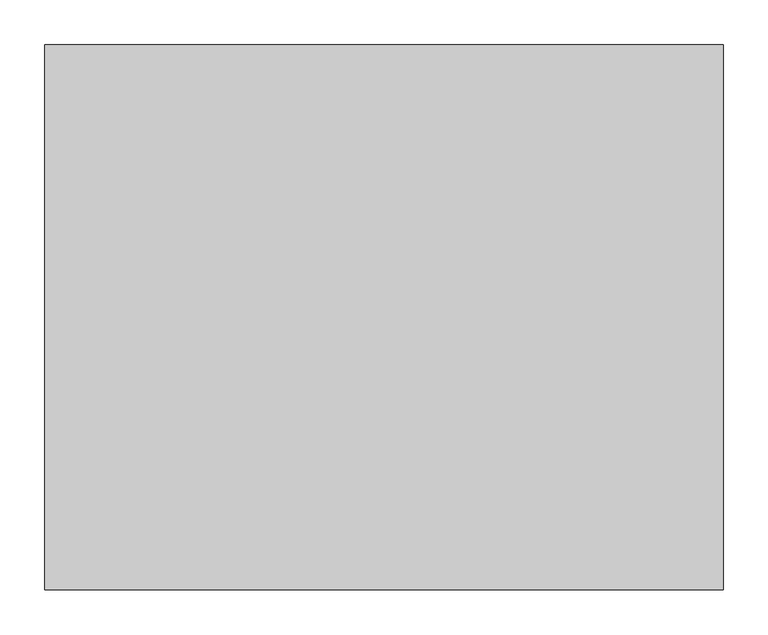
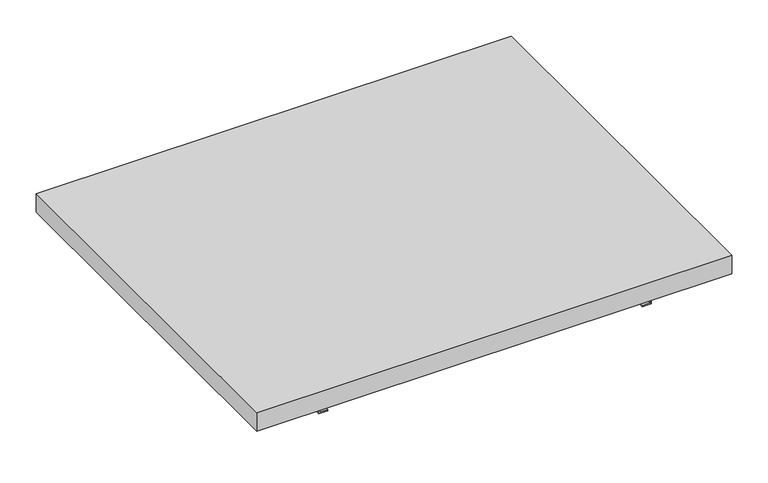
"""IFC4 building model written with IfcOpenShell, lengths in millimetres: furniture geometry."""

from ifc_helpers import new_model, si_unit, frame, origin, place, context, project, spatial, polyline, outline, extrude, source, transform, mapped, element, save


def furniture_236c058c(model_context):
    return source(origin(), model_context, "Body", "SweptSolid", [
        extrude(outline(polyline([(455.6125, 177.8), (455.6125, -431.8), (-303.2125, -431.8), (-303.2125, 177.8), (455.6125, 177.8)])), frame((0.0, 0.0, 882.65), z_axis=(0.0, 0.0, 1.0), x_axis=(1.0, 0.0, 0.0)), (0.0, 0.0, 1.0), 31.75),
        extrude(outline(polyline([(858.8375, -187.325), (882.65, -187.325), (882.65, -188.9125), (857.25, -188.9125), (857.25, -174.625), (858.8375, -174.625), (858.8375, -187.325)])), frame((0.0, -406.4, 0.0), z_axis=(0.0, 1.0, 0.0), x_axis=(0.0, 0.0, 1.0)), (0.0, 0.0, 1.0), 390.525),
        extrude(outline(polyline([(858.8375, 339.725), (858.8375, 327.025), (857.25, 327.025), (857.25, 341.3125), (882.65, 341.3125), (882.65, 339.725), (858.8375, 339.725)])), frame((0.0, -406.4, 0.0), z_axis=(0.0, 1.0, 0.0), x_axis=(0.0, 0.0, 1.0)), (0.0, 0.0, 1.0), 390.525),
    ])


if __name__ == "__main__":
    model = new_model("IFC4")
    model_context = context("Model", 3, world=origin())
    ifc_project = project(units=[si_unit("LENGTHUNIT", "METRE", prefix="MILLI")], contexts=[model_context])
    site = spatial("IfcSite", under=ifc_project)
    building = spatial("IfcBuilding", under=site)
    placement = place(None, origin())
    furniture_shape = furniture_236c058c(model_context)
    element("IfcFurniture", 1, ObjectType="HermanMiller_CoStruc_C2141_Heavy-DutyWorkSurface : 24\"D x 30\"W Lam", at=placement, inside=building, context=model_context, shape_type="MappedRepresentation", body=[
        mapped(furniture_shape, transform((0.0, 0.0, 0.0), x_axis=(1.0, 0.0, 0.0), y_axis=(0.0, 1.0, 0.0), z_axis=(0.0, 0.0, 1.0))),
    ])
    save(model, "model.ifc")
